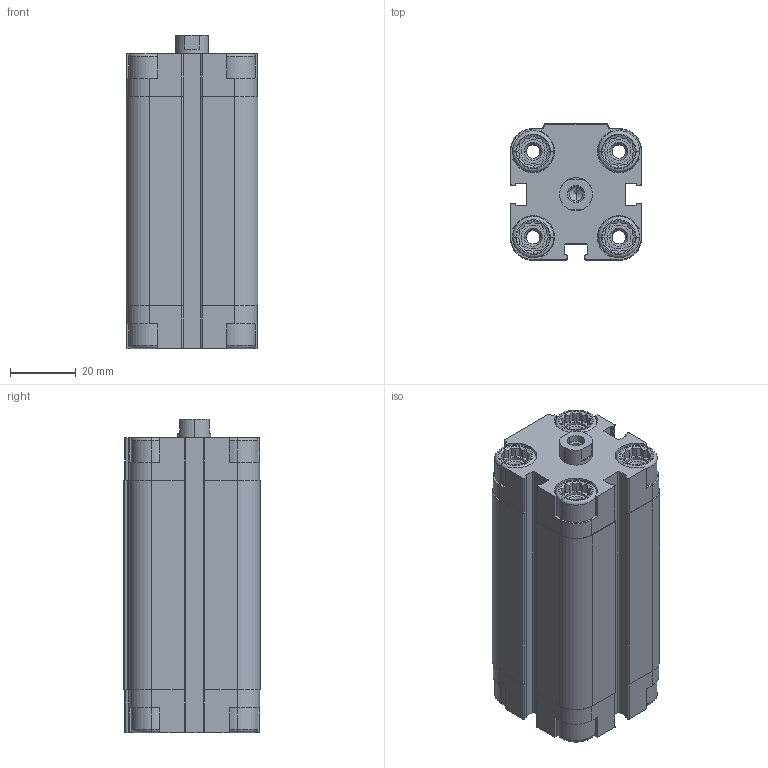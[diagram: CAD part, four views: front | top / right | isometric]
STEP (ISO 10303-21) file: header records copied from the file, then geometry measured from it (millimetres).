
FILE_DESCRIPTION (( 'STEP AP203' ), '1' );
FILE_NAME ('CDVU25-50F.STEP', '2020-03-30T14:56:44', ( '' ), ( '' ), 'SwSTEP 2.0', 'SolidWorks 2019', '' );
FILE_SCHEMA (( 'CONFIG_CONTROL_DESIGN' ));
Length unit declared in the file: millimetre
Products named in the file (1): CDVU25-50F
Bounding box: 40 x 41.5 x 95 mm (x, y, z)
Volume: 96778.9 mm3; surface area: 40036.7 mm2
Topology: 2 solids, 2 shells, 583 faces, 1540 edges, 995 vertices
Faces by surface type: plane 351, cylinder 170, cone 46, torus 16
Entity records: 18183 total; most frequent: CARTESIAN_POINT 3689, ORIENTED_EDGE 3068, DIRECTION 2926, EDGE_CURVE 1534, AXIS2_PLACEMENT_3D 1000, VERTEX_POINT 995, VECTOR 926, LINE 926
